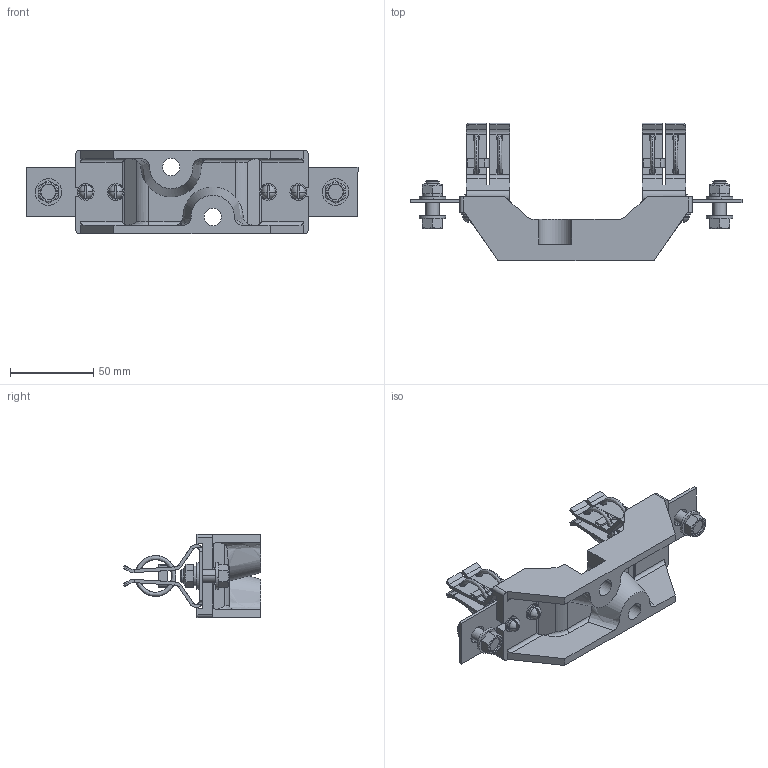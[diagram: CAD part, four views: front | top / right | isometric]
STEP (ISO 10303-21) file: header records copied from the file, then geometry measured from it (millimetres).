
FILE_DESCRIPTION (( 'STEP AP214' ), '1' );
FILE_NAME ('ﾎ魵瑙韃 ﾏﾏﾍ-1-ﾈ1-ﾓﾕﾋ3-ﾊﾝﾀ.STEP', '2023-05-26T05:36:37', ( '' ), ( '' ), 'SwSTEP 2.0', 'SolidWorks 2018', '' );
FILE_SCHEMA (( 'AUTOMOTIVE_DESIGN' ));
Length unit declared in the file: millimetre
Products named in the file (1): ﾎ魵瑙韃 ﾏﾏﾍ-1-ﾈ1-ﾓﾕﾋ3-ﾊﾝﾀ
Bounding box: 200 x 83 x 50 mm (x, y, z)
Volume: 106811.1 mm3; surface area: 55043.2 mm2
Topology: 1 solids, 5 shells, 656 faces, 1642 edges, 1016 vertices
Faces by surface type: plane 352, cylinder 240, torus 30, cone 16, bspline 10, sphere 8
Entity records: 28776 total; most frequent: CARTESIAN_POINT 5701, DIRECTION 3370, ORIENTED_EDGE 3284, EDGE_CURVE 1642, AXIS2_PLACEMENT_3D 1257, VERTEX_POINT 1016, LINE 856, VECTOR 856
